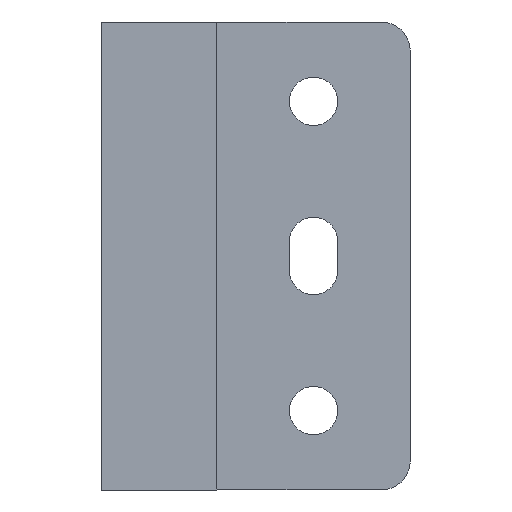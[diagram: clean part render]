
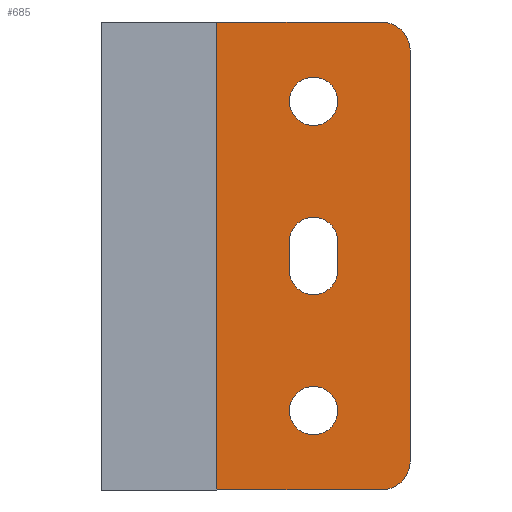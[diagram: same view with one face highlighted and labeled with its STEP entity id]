
A CAD part, front view. The second image highlights one B-rep face of the part: STEP entity #685.
In plain terms, the highlighted planar face has unit normal (0, -1, 0).
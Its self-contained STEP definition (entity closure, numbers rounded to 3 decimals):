
#3 = EDGE_CURVE ( 'NONE', #94, #83, #461, .T. ) ;
#4 = EDGE_CURVE ( 'NONE', #89, #62, #568, .T. ) ;
#5 = EDGE_CURVE ( 'NONE', #67, #90, #542, .T. ) ;
#15 = AXIS2_PLACEMENT_3D ( 'NONE', #101, #98, #99 ) ;
#18 = AXIS2_PLACEMENT_3D ( 'NONE', #135, #132, #133 ) ;
#19 = AXIS2_PLACEMENT_3D ( 'NONE', #145, #147, #149 ) ;
#20 = AXIS2_PLACEMENT_3D ( 'NONE', #141, #140, #143 ) ;
#23 = AXIS2_PLACEMENT_3D ( 'NONE', #126, #125, #129 ) ;
#24 = AXIS2_PLACEMENT_3D ( 'NONE', #131, #139, #138 ) ;
#26 = AXIS2_PLACEMENT_3D ( 'NONE', #103, #102, #105 ) ;
#31 = EDGE_CURVE ( 'NONE', #79, #78, #631, .T. ) ;
#32 = EDGE_CURVE ( 'NONE', #90, #87, #607, .T. ) ;
#34 = EDGE_CURVE ( 'NONE', #87, #84, #610, .T. ) ;
#35 = EDGE_CURVE ( 'NONE', #88, #85, #585, .T. ) ;
#36 = EDGE_CURVE ( 'NONE', #83, #94, #504, .T. ) ;
#37 = EDGE_CURVE ( 'NONE', #62, #89, #490, .T. ) ;
#39 = EDGE_CURVE ( 'NONE', #85, #96, #619, .T. ) ;
#41 = EDGE_CURVE ( 'NONE', #67, #78, #617, .T. ) ;
#43 = EDGE_CURVE ( 'NONE', #79, #84, #622, .T. ) ;
#57 = CARTESIAN_POINT ( 'NONE',  ( -10., 0., 8.2 ) ) ;
#62 = VERTEX_POINT ( 'NONE', #157 ) ;
#67 = VERTEX_POINT ( 'NONE', #168 ) ;
#78 = VERTEX_POINT ( 'NONE', #181 ) ;
#79 = VERTEX_POINT ( 'NONE', #186 ) ;
#83 = VERTEX_POINT ( 'NONE', #188 ) ;
#84 = VERTEX_POINT ( 'NONE', #191 ) ;
#85 = VERTEX_POINT ( 'NONE', #190 ) ;
#87 = VERTEX_POINT ( 'NONE', #192 ) ;
#88 = VERTEX_POINT ( 'NONE', #193 ) ;
#89 = VERTEX_POINT ( 'NONE', #196 ) ;
#90 = VERTEX_POINT ( 'NONE', #195 ) ;
#94 = VERTEX_POINT ( 'NONE', #197 ) ;
#95 = VERTEX_POINT ( 'NONE', #198 ) ;
#96 = VERTEX_POINT ( 'NONE', #201 ) ;
#98 = DIRECTION ( 'NONE',  ( 0., -1., 0. ) ) ;
#99 = DIRECTION ( 'NONE',  ( 1., 0., 0. ) ) ;
#101 = CARTESIAN_POINT ( 'NONE',  ( 0., 0., 0. ) ) ;
#102 = DIRECTION ( 'NONE',  ( 0., -1., 0. ) ) ;
#103 = CARTESIAN_POINT ( 'NONE',  ( 0., 0., -32. ) ) ;
#104 = DIRECTION ( 'NONE',  ( 0., 0., -1. ) ) ;
#105 = DIRECTION ( 'NONE',  ( 1., 0., 0. ) ) ;
#125 = DIRECTION ( 'NONE',  ( 0., -1., 0. ) ) ;
#126 = CARTESIAN_POINT ( 'NONE',  ( 7., 0., 5.2 ) ) ;
#127 = CARTESIAN_POINT ( 'NONE',  ( -10., 0., -40.2 ) ) ;
#128 = DIRECTION ( 'NONE',  ( 1., 0., 0. ) ) ;
#129 = DIRECTION ( 'NONE',  ( -1., 0., 0. ) ) ;
#131 = CARTESIAN_POINT ( 'NONE',  ( 0., 0., 0. ) ) ;
#132 = DIRECTION ( 'NONE',  ( 0., -1., 0. ) ) ;
#133 = DIRECTION ( 'NONE',  ( -1., 0., 0. ) ) ;
#135 = CARTESIAN_POINT ( 'NONE',  ( 7., 0., -37.2 ) ) ;
#136 = CARTESIAN_POINT ( 'NONE',  ( 2.5, 0., -14.5 ) ) ;
#137 = DIRECTION ( 'NONE',  ( 0., 0., 1. ) ) ;
#138 = DIRECTION ( 'NONE',  ( 1., 0., 0. ) ) ;
#139 = DIRECTION ( 'NONE',  ( 0., -1., 0. ) ) ;
#140 = DIRECTION ( 'NONE',  ( 0., -1., 0. ) ) ;
#141 = CARTESIAN_POINT ( 'NONE',  ( 0., 0., -32. ) ) ;
#142 = CARTESIAN_POINT ( 'NONE',  ( -10., 0., 8.2 ) ) ;
#143 = DIRECTION ( 'NONE',  ( 1., 0., 0. ) ) ;
#145 = CARTESIAN_POINT ( 'NONE',  ( 0., 0., -14.5 ) ) ;
#147 = DIRECTION ( 'NONE',  ( 0., -1., 0. ) ) ;
#149 = DIRECTION ( 'NONE',  ( 1., 0., 0. ) ) ;
#150 = CARTESIAN_POINT ( 'NONE',  ( 10., 0., 8.2 ) ) ;
#152 = DIRECTION ( 'NONE',  ( 1., 0., 0. ) ) ;
#156 = DIRECTION ( 'NONE',  ( 0., 0., -1. ) ) ;
#157 = CARTESIAN_POINT ( 'NONE',  ( 2.5, 0., -32. ) ) ;
#168 = CARTESIAN_POINT ( 'NONE',  ( -10., 0., 8.2 ) ) ;
#181 = CARTESIAN_POINT ( 'NONE',  ( 7., 0., 8.2 ) ) ;
#186 = CARTESIAN_POINT ( 'NONE',  ( 10., 0., 5.2 ) ) ;
#188 = CARTESIAN_POINT ( 'NONE',  ( 2.5, 0., 0. ) ) ;
#190 = CARTESIAN_POINT ( 'NONE',  ( 2.5, 0., -14.5 ) ) ;
#191 = CARTESIAN_POINT ( 'NONE',  ( 10., 0., -37.2 ) ) ;
#192 = CARTESIAN_POINT ( 'NONE',  ( 7., 0., -40.2 ) ) ;
#193 = CARTESIAN_POINT ( 'NONE',  ( 2.5, 0., -17.5 ) ) ;
#195 = CARTESIAN_POINT ( 'NONE',  ( -10., 0., -40.2 ) ) ;
#196 = CARTESIAN_POINT ( 'NONE',  ( -2.5, 0., -32. ) ) ;
#197 = CARTESIAN_POINT ( 'NONE',  ( -2.5, 0., 0. ) ) ;
#198 = CARTESIAN_POINT ( 'NONE',  ( -2.5, 0., -17.5 ) ) ;
#201 = CARTESIAN_POINT ( 'NONE',  ( -2.5, 0., -14.5 ) ) ;
#218 = CARTESIAN_POINT ( 'NONE',  ( 0., 0., -17.5 ) ) ;
#219 = DIRECTION ( 'NONE',  ( 0., -1., 0. ) ) ;
#230 = DIRECTION ( 'NONE',  ( 1., 0., 0. ) ) ;
#234 = CARTESIAN_POINT ( 'NONE',  ( -2.5, 0., -14.5 ) ) ;
#236 = DIRECTION ( 'NONE',  ( 0., 0., -1. ) ) ;
#302 = PLANE ( 'NONE',  #662 ) ;
#305 = CARTESIAN_POINT ( 'NONE',  ( -10., 0., 8.2 ) ) ;
#312 = DIRECTION ( 'NONE',  ( -1., 0., 0. ) ) ;
#313 = DIRECTION ( 'NONE',  ( 0., 1., 0. ) ) ;
#354 = FACE_BOUND ( 'NONE', #507, .T. ) ;
#367 = VECTOR ( 'NONE', #236, 1000. ) ;
#377 = CIRCLE ( 'NONE', #657, 2.5 ) ;
#393 = LINE ( 'NONE', #234, #367 ) ;
#421 = FACE_BOUND ( 'NONE', #485, .T. ) ;
#424 = FACE_BOUND ( 'NONE', #606, .T. ) ;
#426 = FACE_OUTER_BOUND ( 'NONE', #539, .T. ) ;
#447 = ORIENTED_EDGE ( 'NONE', *, *, #4, .F. ) ;
#456 = ORIENTED_EDGE ( 'NONE', *, *, #32, .T. ) ;
#460 = ORIENTED_EDGE ( 'NONE', *, *, #31, .T. ) ;
#461 = CIRCLE ( 'NONE', #15, 2.5 ) ;
#472 = VECTOR ( 'NONE', #104, 1000. ) ;
#478 = ORIENTED_EDGE ( 'NONE', *, *, #35, .F. ) ;
#485 = EDGE_LOOP ( 'NONE', ( #578, #546, #478, #614 ) ) ;
#488 = ORIENTED_EDGE ( 'NONE', *, *, #41, .F. ) ;
#490 = CIRCLE ( 'NONE', #20, 2.5 ) ;
#504 = CIRCLE ( 'NONE', #24, 2.5 ) ;
#507 = EDGE_LOOP ( 'NONE', ( #535, #447 ) ) ;
#516 = ORIENTED_EDGE ( 'NONE', *, *, #5, .T. ) ;
#535 = ORIENTED_EDGE ( 'NONE', *, *, #37, .F. ) ;
#536 = ORIENTED_EDGE ( 'NONE', *, *, #3, .F. ) ;
#539 = EDGE_LOOP ( 'NONE', ( #456, #590, #618, #460, #488, #516 ) ) ;
#542 = LINE ( 'NONE', #57, #472 ) ;
#546 = ORIENTED_EDGE ( 'NONE', *, *, #39, .F. ) ;
#568 = CIRCLE ( 'NONE', #26, 2.5 ) ;
#578 = ORIENTED_EDGE ( 'NONE', *, *, #641, .F. ) ;
#581 = VECTOR ( 'NONE', #137, 1000. ) ;
#585 = LINE ( 'NONE', #136, #581 ) ;
#586 = ORIENTED_EDGE ( 'NONE', *, *, #36, .F. ) ;
#590 = ORIENTED_EDGE ( 'NONE', *, *, #34, .T. ) ;
#606 = EDGE_LOOP ( 'NONE', ( #586, #536 ) ) ;
#607 = LINE ( 'NONE', #127, #630 ) ;
#610 = CIRCLE ( 'NONE', #18, 3. ) ;
#614 = ORIENTED_EDGE ( 'NONE', *, *, #638, .F. ) ;
#616 = VECTOR ( 'NONE', #156, 1000. ) ;
#617 = LINE ( 'NONE', #142, #620 ) ;
#618 = ORIENTED_EDGE ( 'NONE', *, *, #43, .F. ) ;
#619 = CIRCLE ( 'NONE', #19, 2.5 ) ;
#620 = VECTOR ( 'NONE', #152, 1000. ) ;
#622 = LINE ( 'NONE', #150, #616 ) ;
#630 = VECTOR ( 'NONE', #128, 1000. ) ;
#631 = CIRCLE ( 'NONE', #23, 3. ) ;
#638 = EDGE_CURVE ( 'NONE', #95, #88, #377, .T. ) ;
#641 = EDGE_CURVE ( 'NONE', #96, #95, #393, .T. ) ;
#657 = AXIS2_PLACEMENT_3D ( 'NONE', #218, #219, #230 ) ;
#662 = AXIS2_PLACEMENT_3D ( 'NONE', #305, #313, #312 ) ;
#685 = ADVANCED_FACE ( 'NONE', ( #421, #354, #424, #426 ), #302, .F. ) ;
